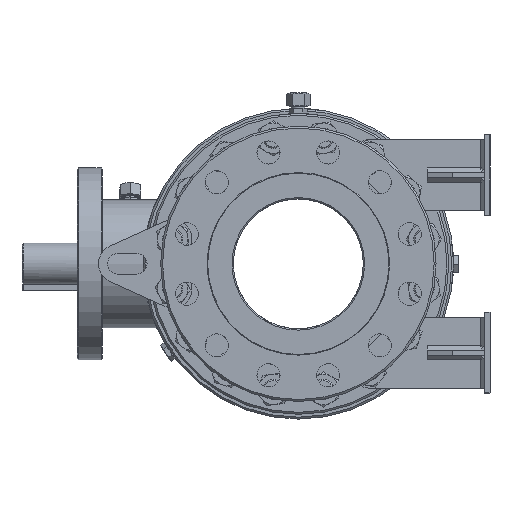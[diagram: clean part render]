
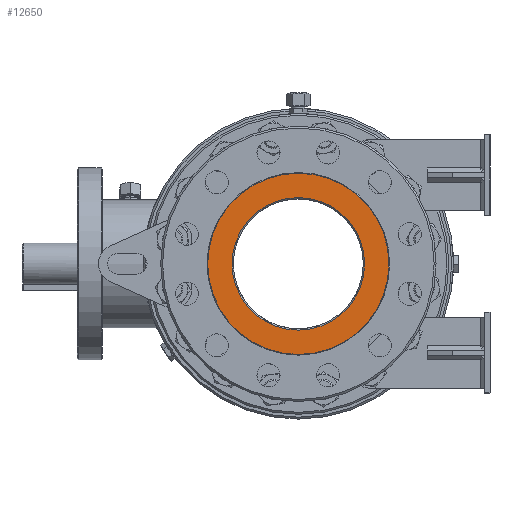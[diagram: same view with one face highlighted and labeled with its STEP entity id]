
A CAD part, left-side view. The second image highlights one B-rep face of the part: STEP entity #12650.
In plain terms, the highlighted planar face has unit normal (-1, 0, 0) as drawn and (1, 0, 0) by its records, which use the part's own axes.
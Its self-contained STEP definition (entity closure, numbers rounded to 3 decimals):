
#4676 = AXIS2_PLACEMENT_3D ( 'NONE', #11296, #36233, #14872 ) ;
#5951 = CIRCLE ( 'NONE', #32751, 141.5 ) ;
#6140 = ORIENTED_EDGE ( 'NONE', *, *, #42517, .F. ) ;
#7034 = VERTEX_POINT ( 'NONE', #21308 ) ;
#9426 = ORIENTED_EDGE ( 'NONE', *, *, #20076, .T. ) ;
#10614 = DIRECTION ( 'NONE',  ( -1., 0., 0. ) ) ;
#10634 = CARTESIAN_POINT ( 'NONE',  ( 240.5, 0., 0. ) ) ;
#11296 = CARTESIAN_POINT ( 'NONE',  ( 240.5, 0., 0. ) ) ;
#12327 = PLANE ( 'NONE',  #31985 ) ;
#12650 = ADVANCED_FACE ( 'NONE', ( #15055, #43538 ), #12327, .F. ) ;
#13620 = CIRCLE ( 'NONE', #40820, 141.5 ) ;
#14186 = DIRECTION ( 'NONE',  ( 0., 0., 1. ) ) ;
#14548 = CARTESIAN_POINT ( 'NONE',  ( 240.5, 0., 103.5 ) ) ;
#14764 = CARTESIAN_POINT ( 'NONE',  ( 240.5, 0., 0. ) ) ;
#14872 = DIRECTION ( 'NONE',  ( 0., 0., 1. ) ) ;
#15055 = FACE_OUTER_BOUND ( 'NONE', #41768, .T. ) ;
#15206 = AXIS2_PLACEMENT_3D ( 'NONE', #31943, #10614, #35541 ) ;
#15210 = ORIENTED_EDGE ( 'NONE', *, *, #25938, .T. ) ;
#15638 = CIRCLE ( 'NONE', #4676, 103.5 ) ;
#17414 = CIRCLE ( 'NONE', #15206, 103.5 ) ;
#17441 = EDGE_CURVE ( 'NONE', #19898, #31618, #5951, .T. ) ;
#18374 = DIRECTION ( 'NONE',  ( 0., 0., 1. ) ) ;
#18753 = EDGE_LOOP ( 'NONE', ( #15210, #9426 ) ) ;
#19898 = VERTEX_POINT ( 'NONE', #20305 ) ;
#20076 = EDGE_CURVE ( 'NONE', #28189, #7034, #17414, .T. ) ;
#20305 = CARTESIAN_POINT ( 'NONE',  ( 240.5, 0., 141.5 ) ) ;
#21308 = CARTESIAN_POINT ( 'NONE',  ( 240.5, 0., -103.5 ) ) ;
#23835 = CARTESIAN_POINT ( 'NONE',  ( 240.5, 0., -141.5 ) ) ;
#25938 = EDGE_CURVE ( 'NONE', #7034, #28189, #15638, .T. ) ;
#28189 = VERTEX_POINT ( 'NONE', #14548 ) ;
#30085 = CARTESIAN_POINT ( 'NONE',  ( 240.5, 103.5, 0. ) ) ;
#31618 = VERTEX_POINT ( 'NONE', #23835 ) ;
#31943 = CARTESIAN_POINT ( 'NONE',  ( 240.5, 0., 0. ) ) ;
#31985 = AXIS2_PLACEMENT_3D ( 'NONE', #30085, #40709, #37286 ) ;
#32751 = AXIS2_PLACEMENT_3D ( 'NONE', #14764, #39724, #18374 ) ;
#35541 = DIRECTION ( 'NONE',  ( 0., 0., 1. ) ) ;
#35559 = DIRECTION ( 'NONE',  ( -1., 0., 0. ) ) ;
#36233 = DIRECTION ( 'NONE',  ( -1., 0., 0. ) ) ;
#37286 = DIRECTION ( 'NONE',  ( 0., 0., 1. ) ) ;
#39724 = DIRECTION ( 'NONE',  ( -1., 0., 0. ) ) ;
#40709 = DIRECTION ( 'NONE',  ( -1., 0., 0. ) ) ;
#40820 = AXIS2_PLACEMENT_3D ( 'NONE', #10634, #35559, #14186 ) ;
#41768 = EDGE_LOOP ( 'NONE', ( #44311, #6140 ) ) ;
#42517 = EDGE_CURVE ( 'NONE', #31618, #19898, #13620, .T. ) ;
#43538 = FACE_BOUND ( 'NONE', #18753, .T. ) ;
#44311 = ORIENTED_EDGE ( 'NONE', *, *, #17441, .F. ) ;
